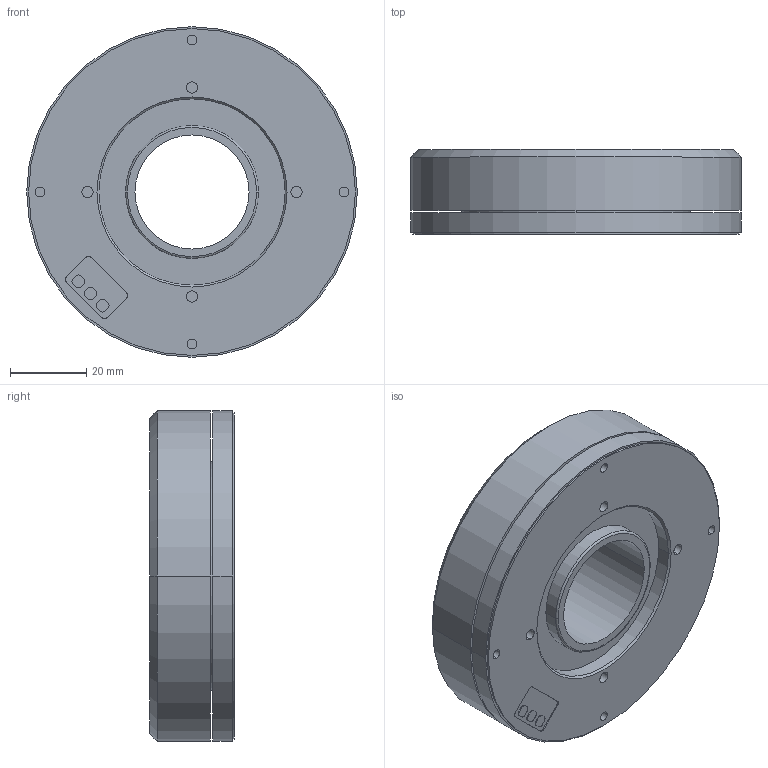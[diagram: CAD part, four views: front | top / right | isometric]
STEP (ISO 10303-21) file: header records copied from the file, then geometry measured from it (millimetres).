
FILE_DESCRIPTION((''),'2;1');
FILE_NAME('GL80','2020-12-14T',('Administrator'),(''),'PRO/ENGINEER BY PARAMETRIC TECHNOLOGY CORPORATION, 2013040','PRO/ENGINEER BY PARAMETRIC TECHNOLOGY CORPORATION, 2013040','');
FILE_SCHEMA(('CONFIG_CONTROL_DESIGN'));
Length unit declared in the file: millimetre
Products named in the file (1): GL80
Bounding box: 87 x 22.3 x 87 mm (x, y, z)
Volume: 110132.4 mm3; surface area: 25955.7 mm2
Topology: 1 solids, 1 shells, 101 faces, 226 edges, 148 vertices
Faces by surface type: cylinder 54, plane 39, cone 6, torus 2
Entity records: 2896 total; most frequent: DIRECTION 546, CARTESIAN_POINT 475, ORIENTED_EDGE 452, EDGE_CURVE 226, AXIS2_PLACEMENT_3D 219, VERTEX_POINT 148, EDGE_LOOP 124, CIRCLE 118
